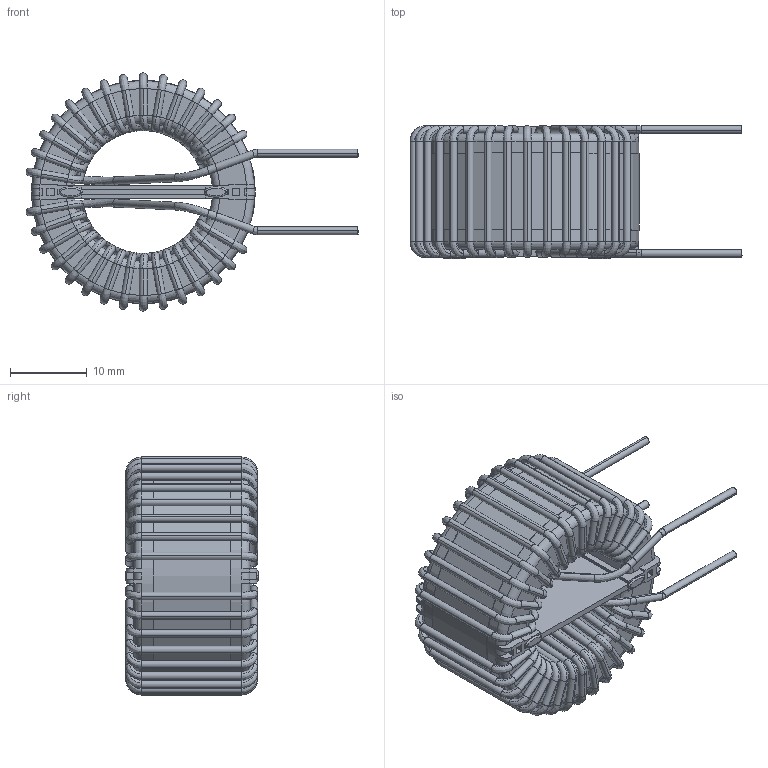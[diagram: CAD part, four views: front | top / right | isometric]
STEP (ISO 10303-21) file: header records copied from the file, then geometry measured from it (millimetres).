
FILE_DESCRIPTION (( 'STEP AP203' ), '1' );
FILE_NAME ('HN-V-163U-8A.STEP', '2020-06-23T13:53:50', ( 'Windows User' ), ( '' ), 'SwSTEP 2.0', 'SolidWorks 2015', '' );
FILE_SCHEMA (( 'CONFIG_CONTROL_DESIGN' ));
Length unit declared in the file: inch
Products named in the file (4): HN-V-163U-8A - COIL; HN-V-163U-8A; HN-V-163U-8A - FRAME; HN-V-163U-8A - CORE
Assembly tree (3 placements, depth 2):
  HN-V-163U-8A
    HN-V-163U-8A - CORE
    HN-V-163U-8A - COIL
    HN-V-163U-8A - FRAME
Bounding box: 43.17 x 17.3 x 30.96 mm (x, y, z)
Volume: 7622.1 mm3; surface area: 10375.2 mm2
Topology: 13 solids, 13 shells, 793 faces, 2287 edges, 1522 vertices
Faces by surface type: cylinder 311, bspline 206, torus 144, plane 132
Entity records: 39689 total; most frequent: CARTESIAN_POINT 18951, ORIENTED_EDGE 4574, DIRECTION 4255, EDGE_CURVE 2287, AXIS2_PLACEMENT_3D 1797, VERTEX_POINT 1522, CIRCLE 1204, EDGE_LOOP 799
